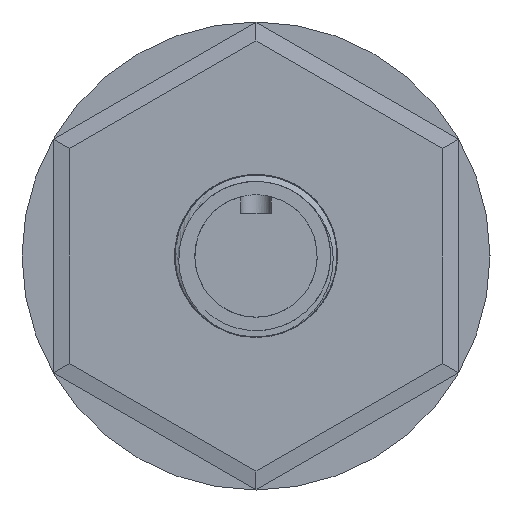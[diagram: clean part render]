
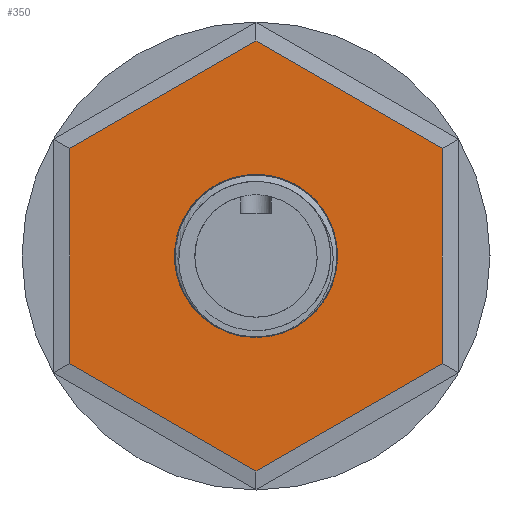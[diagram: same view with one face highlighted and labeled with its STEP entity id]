
A CAD part, left-side view. The second image highlights one B-rep face of the part: STEP entity #350.
In plain terms, the highlighted planar face has unit normal (-1, 0, 0).
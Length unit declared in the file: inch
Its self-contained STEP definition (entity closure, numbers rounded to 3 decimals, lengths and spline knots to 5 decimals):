
#231=LINE('',#10499,#296);
#232=LINE('',#10502,#297);
#233=LINE('',#10504,#298);
#234=LINE('',#10506,#299);
#235=LINE('',#10508,#300);
#236=LINE('',#10510,#301);
#296=VECTOR('',#1132,1.);
#297=VECTOR('',#1133,1.);
#298=VECTOR('',#1134,1.);
#299=VECTOR('',#1135,1.);
#300=VECTOR('',#1136,1.);
#301=VECTOR('',#1137,1.);
#350=ADVANCED_FACE('',(#431,#432),#391,.F.);
#391=PLANE('',#960);
#431=FACE_BOUND('',#483,.T.);
#432=FACE_BOUND('',#484,.T.);
#483=EDGE_LOOP('',(#635));
#484=EDGE_LOOP('',(#636,#637,#638,#639,#640,#641));
#635=ORIENTED_EDGE('',*,*,#858,.T.);
#636=ORIENTED_EDGE('',*,*,#859,.T.);
#637=ORIENTED_EDGE('',*,*,#860,.T.);
#638=ORIENTED_EDGE('',*,*,#861,.T.);
#639=ORIENTED_EDGE('',*,*,#862,.T.);
#640=ORIENTED_EDGE('',*,*,#863,.T.);
#641=ORIENTED_EDGE('',*,*,#864,.T.);
#769=VERTEX_POINT('',#10498);
#770=VERTEX_POINT('',#10500);
#771=VERTEX_POINT('',#10501);
#772=VERTEX_POINT('',#10503);
#773=VERTEX_POINT('',#10505);
#774=VERTEX_POINT('',#10507);
#775=VERTEX_POINT('',#10509);
#858=EDGE_CURVE('',#769,#769,#904,.T.);
#859=EDGE_CURVE('',#770,#771,#231,.T.);
#860=EDGE_CURVE('',#771,#772,#232,.T.);
#861=EDGE_CURVE('',#772,#773,#233,.T.);
#862=EDGE_CURVE('',#773,#774,#234,.T.);
#863=EDGE_CURVE('',#774,#775,#235,.T.);
#864=EDGE_CURVE('',#775,#770,#236,.T.);
#904=CIRCLE('',#959,12.7);
#959=AXIS2_PLACEMENT_3D('',#10497,#1130,#1131);
#960=AXIS2_PLACEMENT_3D('',#10511,#1138,#1139);
#1130=DIRECTION('',(1.,0.,0.));
#1131=DIRECTION('',(0.,0.866,-0.5));
#1132=DIRECTION('',(0.,0.,-1.));
#1133=DIRECTION('',(0.,-0.866,-0.5));
#1134=DIRECTION('',(0.,-0.866,0.5));
#1135=DIRECTION('',(0.,0.,1.));
#1136=DIRECTION('',(0.,0.866,0.5));
#1137=DIRECTION('',(0.,0.866,-0.5));
#1138=DIRECTION('',(1.,0.,0.));
#1139=DIRECTION('',(0.,0.,-1.));
#10497=CARTESIAN_POINT('',(73.246,0.,0.));
#10498=CARTESIAN_POINT('',(73.246,10.99852,-6.35));
#10499=CARTESIAN_POINT('',(73.246,29.,0.));
#10500=CARTESIAN_POINT('',(73.246,29.,16.74316));
#10501=CARTESIAN_POINT('',(73.246,29.,-16.74316));
#10502=CARTESIAN_POINT('',(73.246,14.5,-25.11474));
#10503=CARTESIAN_POINT('',(73.246,0.,-33.48632));
#10504=CARTESIAN_POINT('',(73.246,-14.5,-25.11474));
#10505=CARTESIAN_POINT('',(73.246,-29.,-16.74316));
#10506=CARTESIAN_POINT('',(73.246,-29.,0.));
#10507=CARTESIAN_POINT('',(73.246,-29.,16.74316));
#10508=CARTESIAN_POINT('',(73.246,-14.5,25.11474));
#10509=CARTESIAN_POINT('',(73.246,0.,33.48632));
#10510=CARTESIAN_POINT('',(73.246,14.5,25.11474));
#10511=CARTESIAN_POINT('',(73.246,0.,0.));
